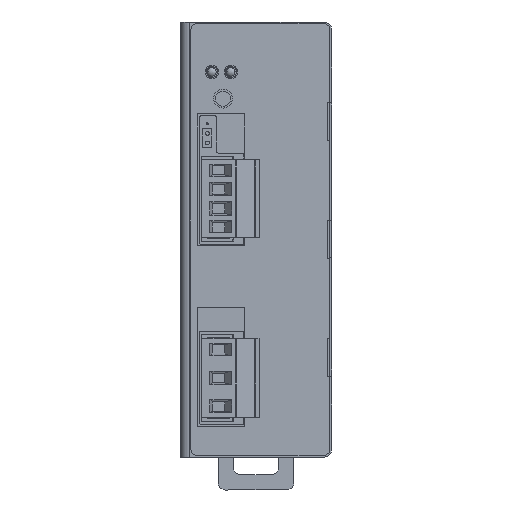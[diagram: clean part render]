
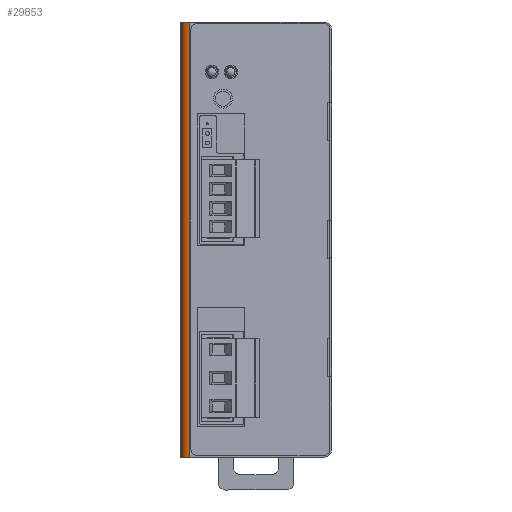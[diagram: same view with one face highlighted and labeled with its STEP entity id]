
A CAD part, left-side view. The second image highlights one B-rep face of the part: STEP entity #29853.
In plain terms, the highlighted cylindrical face has radius 2.5 mm (diameter 5 mm), a partial arc.
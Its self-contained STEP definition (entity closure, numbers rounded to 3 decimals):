
#3409 = VERTEX_POINT ( 'NONE', #91402 ) ;
#3999 = ORIENTED_EDGE ( 'NONE', *, *, #93212, .T. ) ;
#4907 = ORIENTED_EDGE ( 'NONE', *, *, #54359, .T. ) ;
#13959 = CIRCLE ( 'NONE', #63586, 2.5 ) ;
#15506 = VECTOR ( 'NONE', #62577, 1000. ) ;
#17283 = ORIENTED_EDGE ( 'NONE', *, *, #93043, .T. ) ;
#17831 = LINE ( 'NONE', #61846, #15506 ) ;
#17918 = DIRECTION ( 'NONE',  ( 0., 0., 1. ) ) ;
#19820 = DIRECTION ( 'NONE',  ( 0., 0., 1. ) ) ;
#23838 = AXIS2_PLACEMENT_3D ( 'NONE', #38918, #38505, #37754 ) ;
#28254 = CYLINDRICAL_SURFACE ( 'NONE', #23838, 2.5 ) ;
#29853 = ADVANCED_FACE ( 'NONE', ( #81109 ), #28254, .T. ) ;
#32075 = CIRCLE ( 'NONE', #59841, 2.5 ) ;
#32271 = VERTEX_POINT ( 'NONE', #45102 ) ;
#37754 = DIRECTION ( 'NONE',  ( 0., 1., 0. ) ) ;
#38038 = CARTESIAN_POINT ( 'NONE',  ( -52.5, 17.5, -57.5 ) ) ;
#38505 = DIRECTION ( 'NONE',  ( 0., 0., -1. ) ) ;
#38918 = CARTESIAN_POINT ( 'NONE',  ( -52.5, 17.5, 57.5 ) ) ;
#40132 = VECTOR ( 'NONE', #17918, 1000. ) ;
#45102 = CARTESIAN_POINT ( 'NONE',  ( -52.5, 20., 57.5 ) ) ;
#45399 = DIRECTION ( 'NONE',  ( 0., 1., 0. ) ) ;
#47015 = CARTESIAN_POINT ( 'NONE',  ( -55., 17.5, 57.5 ) ) ;
#54359 = EDGE_CURVE ( 'NONE', #32271, #84883, #17831, .T. ) ;
#59841 = AXIS2_PLACEMENT_3D ( 'NONE', #63533, #19820, #70976 ) ;
#61846 = CARTESIAN_POINT ( 'NONE',  ( -52.5, 20., 57.5 ) ) ;
#61862 = LINE ( 'NONE', #47015, #40132 ) ;
#62577 = DIRECTION ( 'NONE',  ( 0., 0., -1. ) ) ;
#63533 = CARTESIAN_POINT ( 'NONE',  ( -52.5, 17.5, 57.5 ) ) ;
#63586 = AXIS2_PLACEMENT_3D ( 'NONE', #38038, #89563, #45399 ) ;
#70976 = DIRECTION ( 'NONE',  ( 0., 1., 0. ) ) ;
#74822 = CARTESIAN_POINT ( 'NONE',  ( -55., 17.5, 57.5 ) ) ;
#75850 = EDGE_LOOP ( 'NONE', ( #17283, #3999, #89190, #4907 ) ) ;
#81109 = FACE_OUTER_BOUND ( 'NONE', #75850, .T. ) ;
#84883 = VERTEX_POINT ( 'NONE', #86626 ) ;
#85184 = VERTEX_POINT ( 'NONE', #74822 ) ;
#86626 = CARTESIAN_POINT ( 'NONE',  ( -52.5, 20., -57.5 ) ) ;
#89190 = ORIENTED_EDGE ( 'NONE', *, *, #93314, .F. ) ;
#89563 = DIRECTION ( 'NONE',  ( 0., 0., 1. ) ) ;
#91402 = CARTESIAN_POINT ( 'NONE',  ( -55., 17.5, -57.5 ) ) ;
#93043 = EDGE_CURVE ( 'NONE', #84883, #3409, #13959, .T. ) ;
#93212 = EDGE_CURVE ( 'NONE', #3409, #85184, #61862, .T. ) ;
#93314 = EDGE_CURVE ( 'NONE', #32271, #85184, #32075, .T. ) ;
